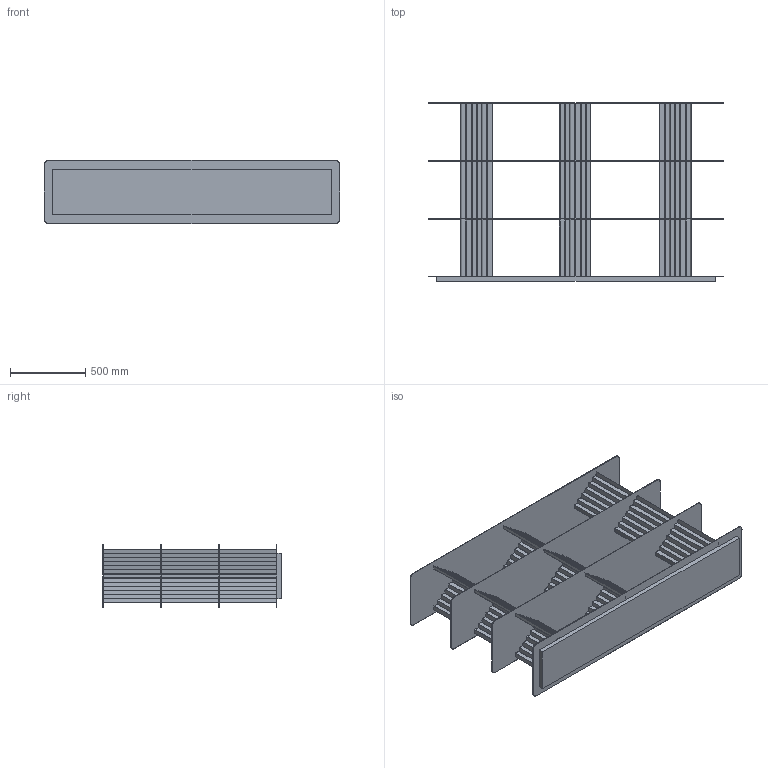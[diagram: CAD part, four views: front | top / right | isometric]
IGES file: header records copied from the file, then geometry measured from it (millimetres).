
Start section: SolidWorks IGES file using analytic representation for surfaces
Global section: file name: Z:\30-Ingenieria I+D\Proyectos\03-Plec_Shelves APO\1-sw\WEB\Arxius\PLEC SHELVES M 3 NIVELES.IGS; native system: SolidWorks 2020; preprocessor: SolidWorks 2020; author: Bernat Llonch; date: 250508.120247; units: millimetre
Bounding box: 1961 x 1187 x 420 mm (x, y, z)
Surface area: 12867657.7 mm2 (no closed solid volume)
Topology: 0 solids, 0 shells, 532 faces, 3248 edges, 3248 vertices
Faces by surface type: bspline 516, revolution 16
